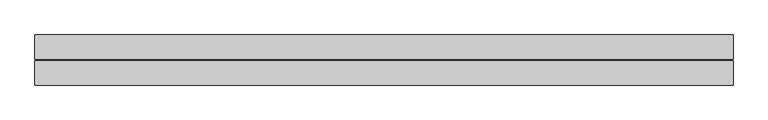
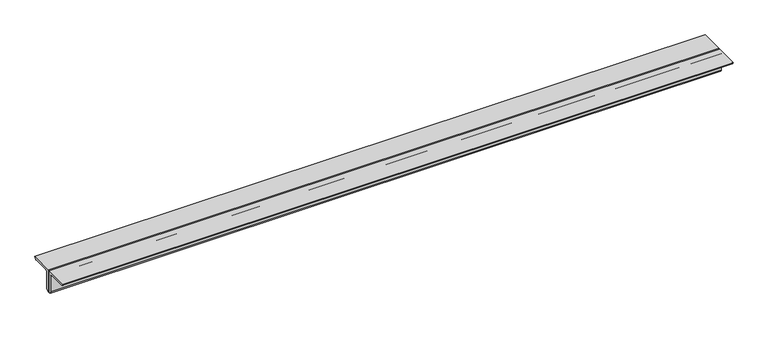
"""IFC4 building model written with IfcOpenShell, lengths in millimetres: beam geometry, Profilati doppi a L : DCED150x12."""

from ifc_helpers import new_model, si_unit, point, frame, frame_2d, origin, place, context, project, spatial, polyline, circle_curve, trimmed, segment, composite_curve, outline, extrude, source, transform, mapped, element, save


def beam_97ae899e(model_context):
    return source(origin(), model_context, "Body", "SweptSolid", [
        extrude(outline(composite_curve([segment(polyline([(-6.0, 42.4), (-6.0, -107.6)]), True, "CONTINUOUS"), segment(trimmed(circle_curve(frame_2d((-6.0, -92.6)), 15.0), [point((-6.0, -107.6))], [point((-21.0, -92.6))], False, "CARTESIAN"), True, "CONTINUOUS"), segment(polyline([(-21.0, -92.6), (-21.0, 12.4)]), True, "CONTINUOUS"), segment(trimmed(circle_curve(frame_2d((-36.0, 12.4)), 15.0), [point((-21.0, 12.4))], [point((-36.0, 27.4))], True, "CARTESIAN"), True, "CONTINUOUS"), segment(polyline([(-36.0, 27.4), (-141.0, 27.4)]), True, "CONTINUOUS"), segment(trimmed(circle_curve(frame_2d((-141.0, 42.4)), 15.0), [point((-141.0, 27.4))], [point((-156.0, 42.4))], False, "CARTESIAN"), True, "CONTINUOUS"), segment(polyline([(-156.0, 42.4), (-6.0, 42.4)]), True, "CONTINUOUS")], self_intersect=False)), frame((-2049.0, 0.0, 0.0), z_axis=(1.0, 0.0, 0.0), x_axis=(0.0, 1.0, 0.0)), (0.0, 0.0, 1.0), 4346.0),
        extrude(outline(composite_curve([segment(polyline([(6.0, 42.4), (156.0, 42.4)]), True, "CONTINUOUS"), segment(trimmed(circle_curve(frame_2d((141.0, 42.4)), 15.0), [point((156.0, 42.4))], [point((141.0, 27.4))], False, "CARTESIAN"), True, "CONTINUOUS"), segment(polyline([(141.0, 27.4), (36.0, 27.4)]), True, "CONTINUOUS"), segment(trimmed(circle_curve(frame_2d((36.0, 12.4)), 15.0), [point((36.0, 27.4))], [point((21.0, 12.4))], True, "CARTESIAN"), True, "CONTINUOUS"), segment(polyline([(21.0, 12.4), (21.0, -92.6)]), True, "CONTINUOUS"), segment(trimmed(circle_curve(frame_2d((6.0, -92.6)), 15.0), [point((21.0, -92.6))], [point((6.0, -107.6))], False, "CARTESIAN"), True, "CONTINUOUS"), segment(polyline([(6.0, -107.6), (6.0, 42.4)]), True, "CONTINUOUS")], self_intersect=False)), frame((-2049.0, 0.0, 0.0), z_axis=(1.0, 0.0, 0.0), x_axis=(0.0, 1.0, 0.0)), (0.0, 0.0, 1.0), 4346.0),
    ])


if __name__ == "__main__":
    model = new_model("IFC4")
    model_context = context("Model", 3, world=origin())
    ifc_project = project(units=[si_unit("LENGTHUNIT", "METRE", prefix="MILLI")], contexts=[model_context])
    site = spatial("IfcSite", under=ifc_project)
    building = spatial("IfcBuilding", under=site)
    placement = place(None, origin())
    beam_shape = beam_97ae899e(model_context)
    element("IfcBeam", 1, ObjectType="Profilati doppi a L : DCED150x12", at=placement, inside=building, context=model_context, shape_type="MappedRepresentation", body=[
        mapped(beam_shape, transform((0.0, 0.0, 0.0), x_axis=(1.0, 0.0, 0.0), y_axis=(0.0, 1.0, 0.0), z_axis=(0.0, 0.0, 1.0))),
    ])
    save(model, "model.ifc")
